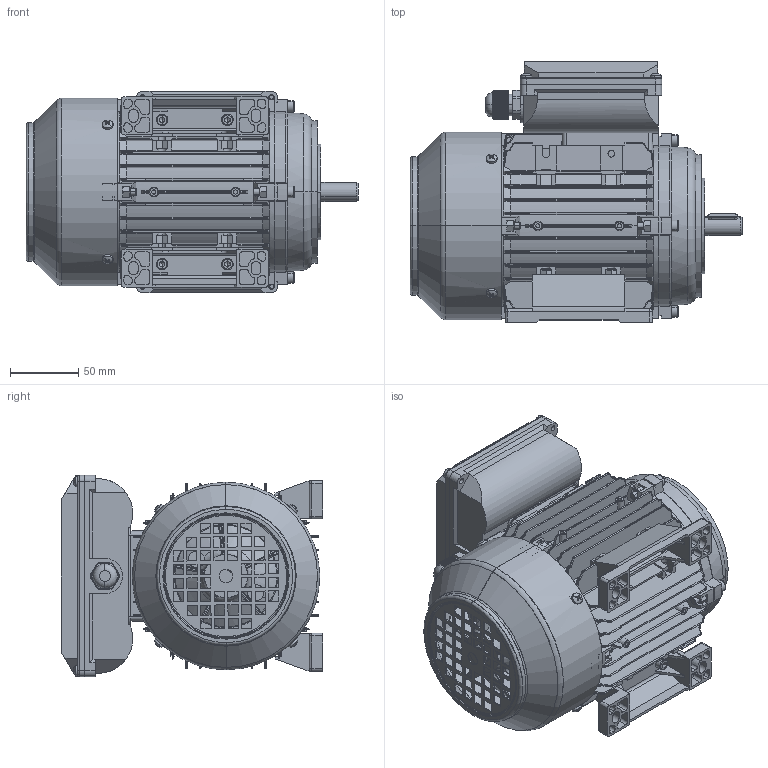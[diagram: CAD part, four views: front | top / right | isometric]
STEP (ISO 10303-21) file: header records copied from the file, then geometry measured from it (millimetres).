
FILE_DESCRIPTION (( 'STEP AP203' ), '1' );
FILE_NAME ('ML2 71 B34.STEP', '2024-01-20T08:06:16', ( '' ), ( '' ), 'SwSTEP 2.0', 'SolidWorks 2016', '' );
FILE_SCHEMA (( 'CONFIG_CONTROL_DESIGN' ));
Length unit declared in the file: millimetre
Products named in the file (17): hexagon nuts grade c gb_GB_FASTENER_NUT_SNC1 M5-N; TAN71 綴裔; TA71瑞欶; hexagon socket head cap screws gb_GB_FASTENER_SCREWS_HSHCS M5X16-N; MS71 瑞珔; 堤盄蹟杶M16; ML63-71臏諉盄碟軞傖.SLDPRT; ML2 71 B34; cross recessed thread forming screws gb_GB_CROSS_SCREWS_TYPE138 M4X10-N; T71蛌粣; hexagon socket head cap screws gb_GB_FASTENER_SCREWS_HSHCS M5X25-N; ML63-71諉盄碟釱(臏); TAN71 儂褲; TAN71 菁褐; TAN71 B14裔; plain parallel keys_GB_CONNECTING_PIECE_KEYS_CSK 5X22; ML63-71諉盄碟裔(臏)
Assembly tree (45 placements, depth 3):
  ML2 71 B34
    TAN71 儂褲
    TAN71 綴裔
    TAN71 菁褐  x2
    T71蛌粣
    TA71瑞欶
    MS71 瑞珔
    hexagon nuts grade c gb_GB_FASTENER_NUT_SNC1 M5-N  x12
    hexagon socket head cap screws gb_GB_FASTENER_SCREWS_HSHCS M5X25-N  x8
    cross recessed thread forming screws gb_GB_CROSS_SCREWS_TYPE138 M4X10-N  x4
    hexagon socket head cap screws gb_GB_FASTENER_SCREWS_HSHCS M5X16-N  x4
    plain parallel keys_GB_CONNECTING_PIECE_KEYS_CSK 5X22
    TAN71 B14裔
    ML63-71臏諉盄碟軞傖.SLDPRT
      cross recessed thread forming screws gb_GB_CROSS_SCREWS_TYPE138 M4X10-N  x4
      堤盄蹟杶M16
      ML63-71諉盄碟裔(臏)
      ML63-71諉盄碟釱(臏)
Bounding box: 244 x 192 x 148 mm (x, y, z)
Volume: 748956.1 mm3; surface area: 549239.6 mm2
Topology: 44 solids, 44 shells, 4451 faces, 11652 edges, 7318 vertices
Faces by surface type: plane 2179, cylinder 1157, bspline 548, cone 377, torus 154, sphere 36
Entity records: 134234 total; most frequent: CARTESIAN_POINT 44437, ORIENTED_EDGE 19642, DIRECTION 16475, EDGE_CURVE 9821, VERTEX_POINT 6204, AXIS2_PLACEMENT_3D 5714, VECTOR 5047, LINE 5047
